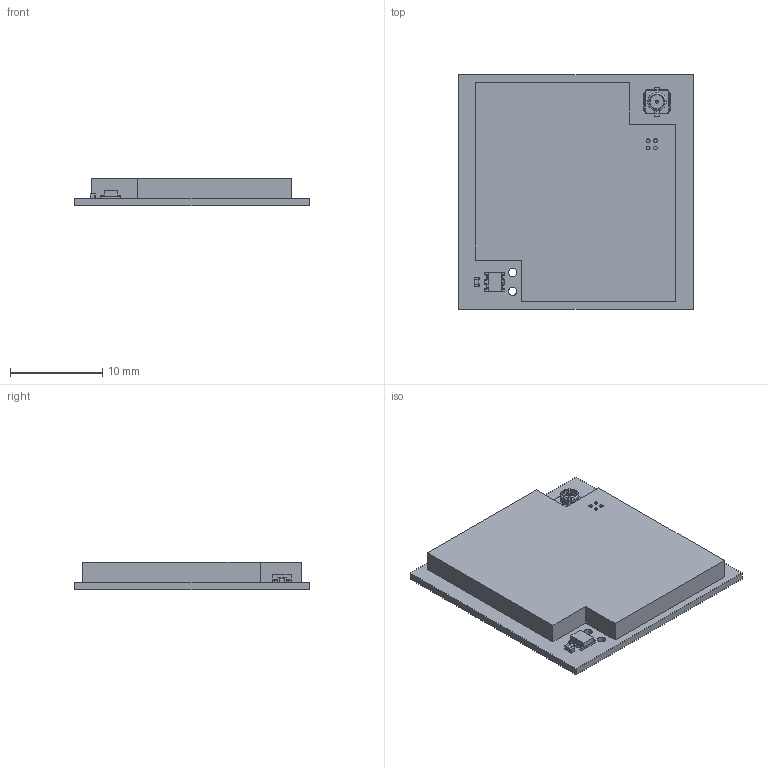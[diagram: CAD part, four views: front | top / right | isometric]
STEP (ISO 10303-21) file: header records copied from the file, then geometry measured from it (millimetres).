
FILE_DESCRIPTION(('Open CASCADE Model'),'2;1');
FILE_NAME('Open CASCADE Shape Model','2026-07-03T08:39:10',('Author'),( 'Open CASCADE'),'Open CASCADE STEP processor 6.8','Open CASCADE 6.8' ,'Unknown');
FILE_SCHEMA(('AUTOMOTIVE_DESIGN { 1 0 10303 214 1 1 1 1 }'));
Length unit declared in the file: millimetre
Products named in the file (77): PCB; Board; ANT1; User_Library-U_FL-R-SMT-1; U6; 1479806224; Extruded; U5; PTX100RDQ56D13; U3; 1444434800; TVS1; SOD-323; R23; 1438780632; R22; 1442728112; R20; User_Library-Chip_Resistor2; R14; R13; FB9; User_Library-Chip_Inductor_(1); FB8; FB7; FB6; C71; cap_0402; C70; C69; C68; C66; 08055C105MAT2A; C64; C61; C59; C56; C54; C52; C51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
Assembly tree (116 placements, depth 4):
  PCB
    Board
    ANT1
      User_Library-U_FL-R-SMT-1
    U6
      1479806224
        Extruded
    U5
      PTX100RDQ56D13
    U3
      1444434800
        Extruded
    TVS1
      SOD-323
    R23
      1438780632
    R22
      1442728112
    R20
      User_Library-Chip_Resistor2
    R14
      User_Library-Chip_Resistor2
    R13
      User_Library-Chip_Resistor2
    FB9
      User_Library-Chip_Inductor_(1)
    FB8
      User_Library-Chip_Inductor_(1)
    FB7
      User_Library-Chip_Inductor_(1)
    FB6
      User_Library-Chip_Inductor_(1)
    C71
      cap_0402
    C70
      cap_0402
    C69
      cap_0402
    C68
      cap_0402
    C66
      08055C105MAT2A
    C64
      08055C105MAT2A
    C61
      08055C105MAT2A
    C59
      08055C105MAT2A
    C56
      08055C105MAT2A
    C54
      08055C105MAT2A
    C52
      08055C105MAT2A
    C51
      08055C105MAT2A
    C45
      cap_0402
    C43
      cap_0402
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Bounding box: 25.4 x 25.4 x 3 mm (x, y, z)
Volume: 779.5 mm3; surface area: 3508.7 mm2
Topology: 153 solids, 153 shells, 3213 faces, 7502 edges, 4308 vertices
Faces by surface type: plane 1562, cylinder 1128, sphere 368, bspline 121, torus 32, revolution 2
Full cylindrical faces by diameter (mm): 0.4 x4, 0.889 x2
Entity records: 54240 total; most frequent: CARTESIAN_POINT 12019, DIRECTION 6639, ORIENTED_EDGE 6600, EDGE_CURVE 3300, LINE 2433, VECTOR 2433, VERTEX_POINT 2108, AXIS2_PLACEMENT_3D 2102
